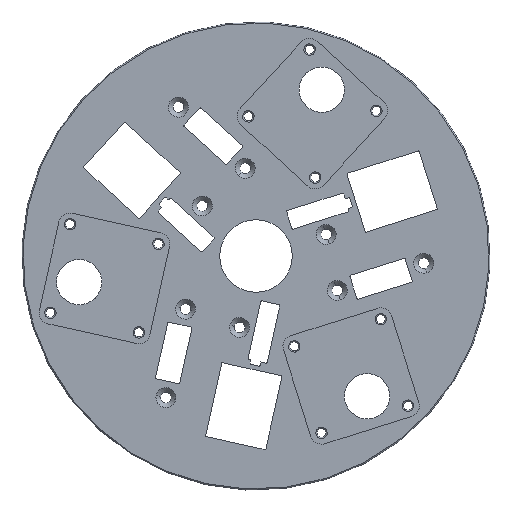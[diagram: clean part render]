
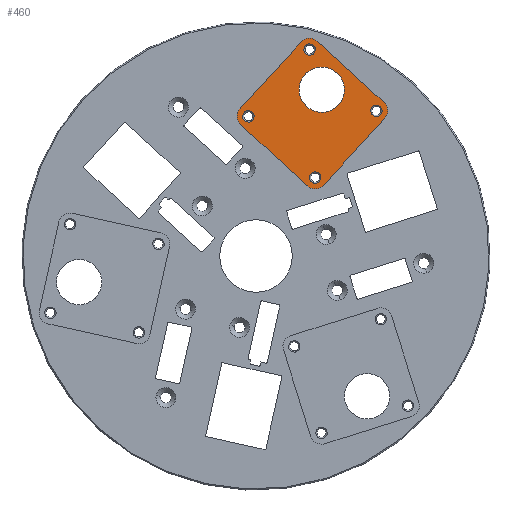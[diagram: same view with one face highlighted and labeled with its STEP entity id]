
A CAD part, front view. The second image highlights one B-rep face of the part: STEP entity #460.
In plain terms, the highlighted planar face has unit normal (0, -1, 0).
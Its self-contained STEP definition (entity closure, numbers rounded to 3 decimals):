
#460=ADVANCED_FACE('',(#950,#951,#952,#953,#954,#749),#2916,.T.);
#749=FACE_OUTER_BOUND('',#1190,.F.);
#950=FACE_BOUND('',#1185,.F.);
#951=FACE_BOUND('',#1186,.F.);
#952=FACE_BOUND('',#1187,.F.);
#953=FACE_BOUND('',#1188,.F.);
#954=FACE_BOUND('',#1189,.F.);
#1185=EDGE_LOOP('',(#2272,#2273));
#1186=EDGE_LOOP('',(#2274,#2275));
#1187=EDGE_LOOP('',(#2276,#2277));
#1188=EDGE_LOOP('',(#2278,#2279));
#1189=EDGE_LOOP('',(#2280,#2281));
#1190=EDGE_LOOP('',(#2282,#2283,#2284,#2285,#2286,#2287,#2288,#2289));
#2272=ORIENTED_EDGE('',*,*,#4224,.T.);
#2273=ORIENTED_EDGE('',*,*,#4223,.T.);
#2274=ORIENTED_EDGE('',*,*,#4213,.T.);
#2275=ORIENTED_EDGE('',*,*,#4214,.T.);
#2276=ORIENTED_EDGE('',*,*,#4228,.T.);
#2277=ORIENTED_EDGE('',*,*,#4227,.T.);
#2278=ORIENTED_EDGE('',*,*,#4209,.T.);
#2279=ORIENTED_EDGE('',*,*,#4210,.T.);
#2280=ORIENTED_EDGE('',*,*,#4208,.T.);
#2281=ORIENTED_EDGE('',*,*,#4207,.T.);
#2282=ORIENTED_EDGE('',*,*,#4219,.T.);
#2283=ORIENTED_EDGE('',*,*,#4218,.F.);
#2284=ORIENTED_EDGE('',*,*,#4222,.T.);
#2285=ORIENTED_EDGE('',*,*,#4217,.F.);
#2286=ORIENTED_EDGE('',*,*,#4221,.T.);
#2287=ORIENTED_EDGE('',*,*,#4216,.F.);
#2288=ORIENTED_EDGE('',*,*,#4220,.T.);
#2289=ORIENTED_EDGE('',*,*,#4215,.F.);
#2916=PLANE('',#5746);
#3195=LINE('',#8614,#3584);
#3196=LINE('',#8615,#3585);
#3197=LINE('',#8616,#3586);
#3198=LINE('',#8617,#3587);
#3584=VECTOR('',#6744,20.);
#3585=VECTOR('',#6745,20.);
#3586=VECTOR('',#6746,20.);
#3587=VECTOR('',#6747,20.);
#4207=EDGE_CURVE('',#4880,#4879,#4709,.T.);
#4208=EDGE_CURVE('',#4879,#4880,#4710,.T.);
#4209=EDGE_CURVE('',#4878,#4877,#4711,.T.);
#4210=EDGE_CURVE('',#4877,#4878,#4712,.T.);
#4213=EDGE_CURVE('',#4874,#4873,#4713,.T.);
#4214=EDGE_CURVE('',#4873,#4874,#4714,.T.);
#4215=EDGE_CURVE('',#4876,#4872,#4715,.T.);
#4216=EDGE_CURVE('',#4871,#4870,#4716,.T.);
#4217=EDGE_CURVE('',#4869,#4868,#4717,.T.);
#4218=EDGE_CURVE('',#4867,#4875,#4718,.T.);
#4219=EDGE_CURVE('',#4876,#4875,#3195,.T.);
#4220=EDGE_CURVE('',#4871,#4872,#3196,.T.);
#4221=EDGE_CURVE('',#4869,#4870,#3197,.T.);
#4222=EDGE_CURVE('',#4867,#4868,#3198,.T.);
#4223=EDGE_CURVE('',#4866,#4865,#4719,.T.);
#4224=EDGE_CURVE('',#4865,#4866,#4720,.T.);
#4227=EDGE_CURVE('',#4864,#4863,#4721,.T.);
#4228=EDGE_CURVE('',#4863,#4864,#4722,.T.);
#4709=CIRCLE('',#5563,5.);
#4710=CIRCLE('',#5564,5.);
#4711=CIRCLE('',#5565,1.25);
#4712=CIRCLE('',#5566,1.25);
#4713=CIRCLE('',#5567,1.25);
#4714=CIRCLE('',#5568,1.25);
#4715=CIRCLE('',#5569,2.5);
#4716=CIRCLE('',#5570,2.5);
#4717=CIRCLE('',#5571,2.5);
#4718=CIRCLE('',#5572,2.5);
#4719=CIRCLE('',#5573,1.25);
#4720=CIRCLE('',#5574,1.25);
#4721=CIRCLE('',#5575,1.25);
#4722=CIRCLE('',#5576,1.25);
#4863=VERTEX_POINT('',#7747);
#4864=VERTEX_POINT('',#7748);
#4865=VERTEX_POINT('',#7749);
#4866=VERTEX_POINT('',#7750);
#4867=VERTEX_POINT('',#7751);
#4868=VERTEX_POINT('',#7752);
#4869=VERTEX_POINT('',#7753);
#4870=VERTEX_POINT('',#7754);
#4871=VERTEX_POINT('',#7755);
#4872=VERTEX_POINT('',#7756);
#4873=VERTEX_POINT('',#7757);
#4874=VERTEX_POINT('',#7758);
#4875=VERTEX_POINT('',#7759);
#4876=VERTEX_POINT('',#7760);
#4877=VERTEX_POINT('',#7761);
#4878=VERTEX_POINT('',#7762);
#4879=VERTEX_POINT('',#7763);
#4880=VERTEX_POINT('',#7764);
#5563=AXIS2_PLACEMENT_3D('',#8602,#6722,#6723);
#5564=AXIS2_PLACEMENT_3D('',#8603,#6724,#6725);
#5565=AXIS2_PLACEMENT_3D('',#8604,#6726,#6727);
#5566=AXIS2_PLACEMENT_3D('',#8605,#6728,#6729);
#5567=AXIS2_PLACEMENT_3D('',#8608,#6732,#6733);
#5568=AXIS2_PLACEMENT_3D('',#8609,#6734,#6735);
#5569=AXIS2_PLACEMENT_3D('',#8610,#6736,#6737);
#5570=AXIS2_PLACEMENT_3D('',#8611,#6738,#6739);
#5571=AXIS2_PLACEMENT_3D('',#8612,#6740,#6741);
#5572=AXIS2_PLACEMENT_3D('',#8613,#6742,#6743);
#5573=AXIS2_PLACEMENT_3D('',#8618,#6748,#6749);
#5574=AXIS2_PLACEMENT_3D('',#8619,#6750,#6751);
#5575=AXIS2_PLACEMENT_3D('',#8622,#6754,#6755);
#5576=AXIS2_PLACEMENT_3D('',#8623,#6756,#6757);
#5746=AXIS2_PLACEMENT_3D('',#8849,#7152,#7153);
#6722=DIRECTION('',(0.,-1.,0.));
#6723=DIRECTION('',(0.423,0.,0.906));
#6724=DIRECTION('',(0.,-1.,0.));
#6725=DIRECTION('',(-0.423,0.,-0.906));
#6726=DIRECTION('',(0.,-1.,0.));
#6727=DIRECTION('',(-0.737,0.,0.676));
#6728=DIRECTION('',(0.,-1.,0.));
#6729=DIRECTION('',(0.737,0.,-0.676));
#6732=DIRECTION('',(0.,-1.,0.));
#6733=DIRECTION('',(-0.737,0.,0.676));
#6734=DIRECTION('',(0.,-1.,0.));
#6735=DIRECTION('',(0.737,0.,-0.676));
#6736=DIRECTION('',(0.,-1.,0.));
#6737=DIRECTION('',(-0.676,0.,-0.737));
#6738=DIRECTION('',(0.,-1.,0.));
#6739=DIRECTION('',(0.737,0.,-0.676));
#6740=DIRECTION('',(0.,-1.,0.));
#6741=DIRECTION('',(0.676,0.,0.737));
#6742=DIRECTION('',(0.,-1.,0.));
#6743=DIRECTION('',(-0.737,0.,0.676));
#6744=DIRECTION('',(-0.737,0.,0.676));
#6745=DIRECTION('',(-0.676,0.,-0.737));
#6746=DIRECTION('',(0.737,0.,-0.676));
#6747=DIRECTION('',(0.676,0.,0.737));
#6748=DIRECTION('',(0.,-1.,0.));
#6749=DIRECTION('',(0.737,0.,-0.676));
#6750=DIRECTION('',(0.,-1.,0.));
#6751=DIRECTION('',(-0.737,0.,0.676));
#6754=DIRECTION('',(0.,-1.,0.));
#6755=DIRECTION('',(0.737,0.,-0.676));
#6756=DIRECTION('',(0.,-1.,0.));
#6757=DIRECTION('',(-0.737,0.,0.676));
#7152=DIRECTION('',(0.,-1.,0.));
#7153=DIRECTION('',(0.676,0.,0.737));
#7747=CARTESIAN_POINT('',(-39.088,-35.223,175.406));
#7748=CARTESIAN_POINT('',(-37.245,-35.223,173.717));
#7749=CARTESIAN_POINT('',(-37.854,-35.223,147.149));
#7750=CARTESIAN_POINT('',(-36.011,-35.223,145.46));
#7751=CARTESIAN_POINT('',(-53.521,-35.223,161.505));
#7752=CARTESIAN_POINT('',(-40.009,-35.223,176.251));
#7753=CARTESIAN_POINT('',(-36.477,-35.223,176.405));
#7754=CARTESIAN_POINT('',(-21.732,-35.223,162.893));
#7755=CARTESIAN_POINT('',(-21.577,-35.223,159.361));
#7756=CARTESIAN_POINT('',(-35.089,-35.223,144.616));
#7757=CARTESIAN_POINT('',(-22.499,-35.223,160.206));
#7758=CARTESIAN_POINT('',(-24.342,-35.223,161.894));
#7759=CARTESIAN_POINT('',(-53.367,-35.223,157.973));
#7760=CARTESIAN_POINT('',(-38.621,-35.223,144.461));
#7761=CARTESIAN_POINT('',(-50.756,-35.223,158.972));
#7762=CARTESIAN_POINT('',(-52.6,-35.223,160.661));
#7763=CARTESIAN_POINT('',(-37.574,-35.223,161.162));
#7764=CARTESIAN_POINT('',(-33.347,-35.223,170.225));
#8602=CARTESIAN_POINT('',(-35.461,-35.223,165.693));
#8603=CARTESIAN_POINT('',(-35.461,-35.223,165.693));
#8604=CARTESIAN_POINT('',(-51.678,-35.223,159.816));
#8605=CARTESIAN_POINT('',(-51.678,-35.223,159.816));
#8608=CARTESIAN_POINT('',(-23.421,-35.223,161.05));
#8609=CARTESIAN_POINT('',(-23.421,-35.223,161.05));
#8610=CARTESIAN_POINT('',(-36.932,-35.223,146.305));
#8611=CARTESIAN_POINT('',(-23.421,-35.223,161.05));
#8612=CARTESIAN_POINT('',(-38.166,-35.223,174.562));
#8613=CARTESIAN_POINT('',(-51.678,-35.223,159.816));
#8614=CARTESIAN_POINT('',(-38.621,-35.223,144.461));
#8615=CARTESIAN_POINT('',(-21.577,-35.223,159.361));
#8616=CARTESIAN_POINT('',(-36.477,-35.223,176.405));
#8617=CARTESIAN_POINT('',(-53.521,-35.223,161.505));
#8618=CARTESIAN_POINT('',(-36.932,-35.223,146.304));
#8619=CARTESIAN_POINT('',(-36.932,-35.223,146.304));
#8622=CARTESIAN_POINT('',(-38.166,-35.223,174.562));
#8623=CARTESIAN_POINT('',(-38.166,-35.223,174.562));
#8849=CARTESIAN_POINT('',(-36.763,-35.223,142.419));
